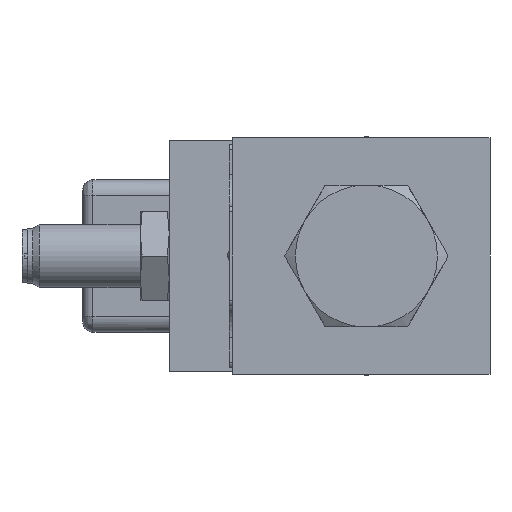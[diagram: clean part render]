
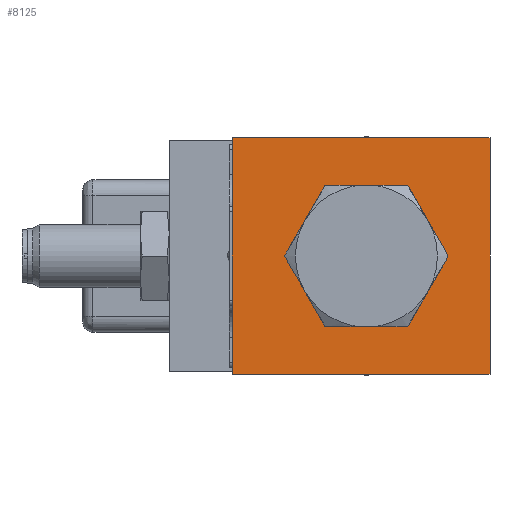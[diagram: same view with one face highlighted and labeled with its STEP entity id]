
A CAD part, left-side view. The second image highlights one B-rep face of the part: STEP entity #8125.
In plain terms, the highlighted planar face has unit normal (-1, 0, 0).
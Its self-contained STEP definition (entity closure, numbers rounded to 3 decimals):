
#5=DIRECTION('',(0.,0.,-1.));
#6=VECTOR('',#5,45.);
#7=CARTESIAN_POINT('',(-34.,25.5,22.5));
#8=LINE('',#7,#6);
#1345=DIRECTION('',(0.,1.,0.));
#1346=VECTOR('',#1345,49.);
#1347=CARTESIAN_POINT('',(-34.,-23.5,-22.5));
#1348=LINE('',#1347,#1346);
#1349=DIRECTION('',(0.,0.,-1.));
#1350=VECTOR('',#1349,45.);
#1351=CARTESIAN_POINT('',(-34.,-23.5,22.5));
#1352=LINE('',#1351,#1350);
#1353=CARTESIAN_POINT('',(-34.,0.,0.));
#1354=DIRECTION('',(-1.,0.,0.));
#1355=DIRECTION('',(0.,-1.,0.));
#1356=AXIS2_PLACEMENT_3D('',#1353,#1354,#1355);
#1358=CARTESIAN_POINT('',(-34.,0.,0.));
#1359=DIRECTION('',(-1.,0.,0.));
#1360=DIRECTION('',(0.,1.,0.));
#1361=AXIS2_PLACEMENT_3D('',#1358,#1359,#1360);
#1367=DIRECTION('',(0.,1.,0.));
#1368=VECTOR('',#1367,49.);
#1369=CARTESIAN_POINT('',(-34.,-23.5,22.5));
#1370=LINE('',#1369,#1368);
#5303=CARTESIAN_POINT('',(-34.,25.5,22.5));
#5304=VERTEX_POINT('',#5303);
#5305=CARTESIAN_POINT('',(-34.,25.5,-22.5));
#5306=VERTEX_POINT('',#5305);
#5384=CARTESIAN_POINT('',(-34.,-23.5,-22.5));
#5386=VERTEX_POINT('',#5384);
#5387=CARTESIAN_POINT('',(-34.,-23.5,22.5));
#5388=VERTEX_POINT('',#5387);
#5871=CARTESIAN_POINT('',(-34.,-13.,0.));
#5872=CARTESIAN_POINT('',(-34.,13.,0.));
#5873=VERTEX_POINT('',#5871);
#5874=VERTEX_POINT('',#5872);
#8107=CARTESIAN_POINT('',(-34.,25.5,-22.5));
#8108=DIRECTION('',(-1.,0.,0.));
#8109=DIRECTION('',(0.,-1.,0.));
#8110=AXIS2_PLACEMENT_3D('',#8107,#8108,#8109);
#8111=PLANE('',#8110);
#8112=ORIENTED_EDGE('',*,*,#8030,.T.);
#8113=ORIENTED_EDGE('',*,*,#6491,.F.);
#8115=ORIENTED_EDGE('',*,*,#8114,.F.);
#8116=ORIENTED_EDGE('',*,*,#8051,.T.);
#8117=EDGE_LOOP('',(#8112,#8113,#8115,#8116));
#8118=FACE_OUTER_BOUND('',#8117,.F.);
#8120=ORIENTED_EDGE('',*,*,#8119,.T.);
#8122=ORIENTED_EDGE('',*,*,#8121,.T.);
#8123=EDGE_LOOP('',(#8120,#8122));
#8124=FACE_BOUND('',#8123,.F.);
#1357=CIRCLE('',#1356,13.);
#1362=CIRCLE('',#1361,13.);
#6491=EDGE_CURVE('',#5304,#5306,#8,.T.);
#8030=EDGE_CURVE('',#5386,#5306,#1348,.T.);
#8051=EDGE_CURVE('',#5388,#5386,#1352,.T.);
#8114=EDGE_CURVE('',#5388,#5304,#1370,.T.);
#8119=EDGE_CURVE('',#5873,#5874,#1357,.T.);
#8121=EDGE_CURVE('',#5874,#5873,#1362,.T.);
#8125=ADVANCED_FACE('',(#8118,#8124),#8111,.T.);
